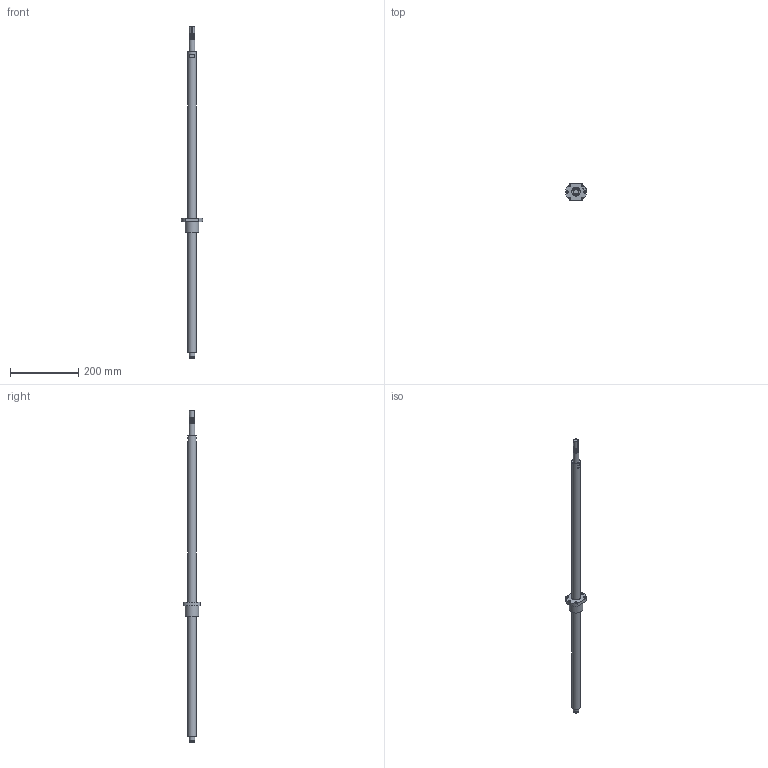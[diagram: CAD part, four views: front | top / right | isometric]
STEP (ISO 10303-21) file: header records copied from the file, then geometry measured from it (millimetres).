
FILE_DESCRIPTION(/* description */ (''),/* implementation_level */ '2;1');
FILE_NAME(/* name */ 'BSG282__G2505-975__stp.stp',/* time_stamp */ '2017-11-21T13:57:51+08:00',/* author */ (''),/* organization */ (''),/* preprocessor_version */ 'ST-DEVELOPER v15',/* originating_system */ 'SIEMENS PLM Software NX 8.5',/* authorisation */ '');
FILE_SCHEMA (('AUTOMOTIVE_DESIGN { 1 0 10303 214 3 1 1 1 }'));
Length unit declared in the file: millimetre
Products named in the file (3): 01; BSG282; BSG282__G2505-975__stp
Assembly tree (2 placements, depth 2):
  BSG282__G2505-975__stp
    BSG282
    01
Bounding box: 61.8 x 48 x 975 mm (x, y, z)
Volume: 495875.6 mm3; surface area: 90351 mm2
Topology: 2 solids, 2 shells, 65 faces, 163 edges, 111 vertices
Faces by surface type: cylinder 37, plane 24, bspline 2, cone 2
Full cylindrical faces by diameter (mm): 5 x1, 6 x1, 6.6 x6, 15 x1, 16.2 x1, 17 x19, 25 x2, 40 x1
Entity records: 4681 total; most frequent: CARTESIAN_POINT 3598, DIRECTION 212, ORIENTED_EDGE 170, AXIS2_PLACEMENT_3D 92, EDGE_LOOP 90, EDGE_CURVE 85, FACE_BOUND 69, VERTEX_POINT 67
